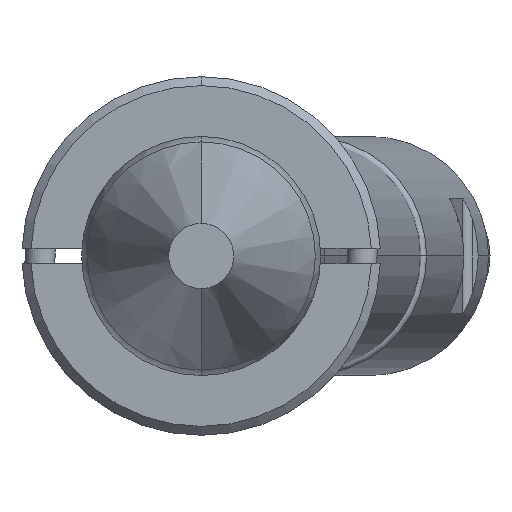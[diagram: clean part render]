
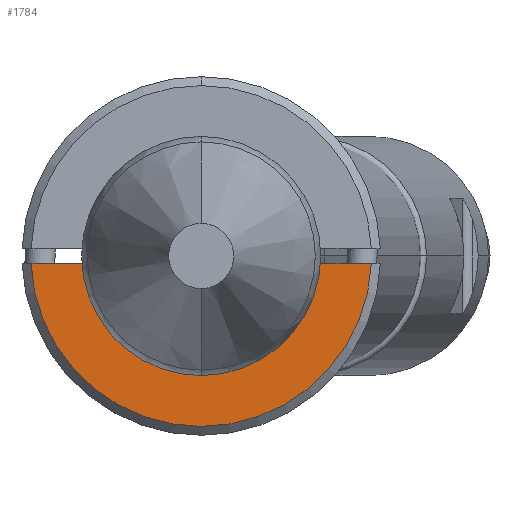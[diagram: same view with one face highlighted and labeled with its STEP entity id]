
A CAD part, front view. The second image highlights one B-rep face of the part: STEP entity #1784.
In plain terms, the highlighted planar face has unit normal (0, -1, 0).
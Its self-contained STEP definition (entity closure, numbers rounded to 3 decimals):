
#88 = CARTESIAN_POINT ( 'NONE',  ( 5.695, -6., -0.25 ) ) ;
#131 = CIRCLE ( 'NONE', #2934, 5.7 ) ;
#210 = EDGE_CURVE ( 'NONE', #1178, #1679, #2043, .T. ) ;
#309 = DIRECTION ( 'NONE',  ( 1., 0., 0. ) ) ;
#366 = CARTESIAN_POINT ( 'NONE',  ( 0., -6., -3.2 ) ) ;
#392 = VECTOR ( 'NONE', #621, 1000. ) ;
#476 = DIRECTION ( 'NONE',  ( 0., -1., 0. ) ) ;
#588 = AXIS2_PLACEMENT_3D ( 'NONE', #3082, #476, #3041 ) ;
#621 = DIRECTION ( 'NONE',  ( 1., 0., 0. ) ) ;
#685 = DIRECTION ( 'NONE',  ( 0., 0., -1. ) ) ;
#815 = CARTESIAN_POINT ( 'NONE',  ( -3.19, -6., -0.25 ) ) ;
#897 = AXIS2_PLACEMENT_3D ( 'NONE', #2138, #2429, #2410 ) ;
#911 = ORIENTED_EDGE ( 'NONE', *, *, #1909, .F. ) ;
#919 = DIRECTION ( 'NONE',  ( 0., -1., 0. ) ) ;
#956 = CIRCLE ( 'NONE', #1093, 3.2 ) ;
#1003 = ORIENTED_EDGE ( 'NONE', *, *, #210, .T. ) ;
#1064 = CARTESIAN_POINT ( 'NONE',  ( -5.695, -6., -0.25 ) ) ;
#1093 = AXIS2_PLACEMENT_3D ( 'NONE', #3880, #1989, #3305 ) ;
#1178 = VERTEX_POINT ( 'NONE', #366 ) ;
#1508 = FACE_OUTER_BOUND ( 'NONE', #2223, .T. ) ;
#1540 = EDGE_CURVE ( 'NONE', #3790, #1178, #956, .T. ) ;
#1679 = VERTEX_POINT ( 'NONE', #815 ) ;
#1784 = ADVANCED_FACE ( 'NONE', ( #1508 ), #2458, .T. ) ;
#1816 = ORIENTED_EDGE ( 'NONE', *, *, #1540, .T. ) ;
#1909 = EDGE_CURVE ( 'NONE', #3790, #3106, #3143, .T. ) ;
#1989 = DIRECTION ( 'NONE',  ( 0., 1., 0. ) ) ;
#2043 = CIRCLE ( 'NONE', #897, 3.2 ) ;
#2116 = EDGE_CURVE ( 'NONE', #2878, #3106, #131, .T. ) ;
#2138 = CARTESIAN_POINT ( 'NONE',  ( 0., -6., 0. ) ) ;
#2223 = EDGE_LOOP ( 'NONE', ( #2233, #2566, #911, #1816, #1003 ) ) ;
#2233 = ORIENTED_EDGE ( 'NONE', *, *, #2797, .F. ) ;
#2410 = DIRECTION ( 'NONE',  ( 0., 0., -1. ) ) ;
#2429 = DIRECTION ( 'NONE',  ( 0., 1., 0. ) ) ;
#2458 = PLANE ( 'NONE',  #588 ) ;
#2566 = ORIENTED_EDGE ( 'NONE', *, *, #2116, .T. ) ;
#2610 = CARTESIAN_POINT ( 'NONE',  ( -6., -6., -0.25 ) ) ;
#2763 = VECTOR ( 'NONE', #309, 1000. ) ;
#2797 = EDGE_CURVE ( 'NONE', #2878, #1679, #3204, .T. ) ;
#2878 = VERTEX_POINT ( 'NONE', #1064 ) ;
#2934 = AXIS2_PLACEMENT_3D ( 'NONE', #3222, #919, #685 ) ;
#3041 = DIRECTION ( 'NONE',  ( 0., 0., -1. ) ) ;
#3082 = CARTESIAN_POINT ( 'NONE',  ( -6., -6., 0. ) ) ;
#3106 = VERTEX_POINT ( 'NONE', #88 ) ;
#3143 = LINE ( 'NONE', #3481, #392 ) ;
#3204 = LINE ( 'NONE', #2610, #2763 ) ;
#3222 = CARTESIAN_POINT ( 'NONE',  ( 0., -6., 0. ) ) ;
#3305 = DIRECTION ( 'NONE',  ( 0., 0., -1. ) ) ;
#3458 = CARTESIAN_POINT ( 'NONE',  ( 3.19, -6., -0.25 ) ) ;
#3481 = CARTESIAN_POINT ( 'NONE',  ( -6., -6., -0.25 ) ) ;
#3790 = VERTEX_POINT ( 'NONE', #3458 ) ;
#3880 = CARTESIAN_POINT ( 'NONE',  ( 0., -6., 0. ) ) ;
